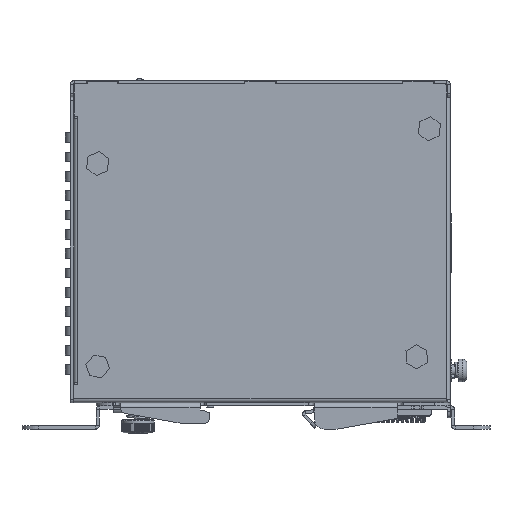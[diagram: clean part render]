
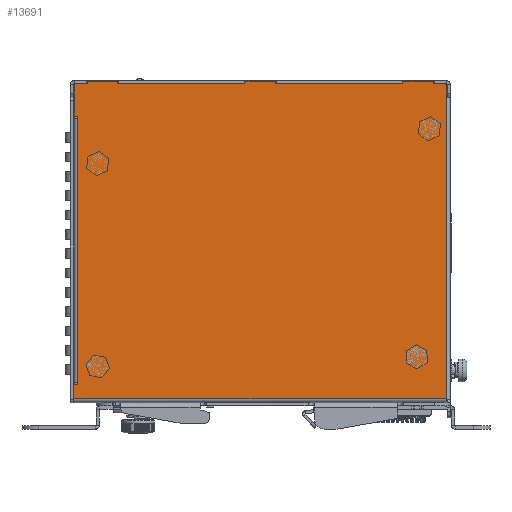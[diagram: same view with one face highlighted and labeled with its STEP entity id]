
A CAD part, left-side view. The second image highlights one B-rep face of the part: STEP entity #13691.
In plain terms, the highlighted planar face has unit normal (-1, 0, 0).
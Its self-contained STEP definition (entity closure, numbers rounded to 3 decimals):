
#5932=DIRECTION('',(0.,-1.,0.));
#5933=VECTOR('',#5932,39.4);
#5934=CARTESIAN_POINT('',(-1.,-4.8,0.));
#5935=LINE('',#5934,#5933);
#5936=DIRECTION('',(0.,0.,-1.));
#5937=VECTOR('',#5936,0.8);
#5938=CARTESIAN_POINT('',(-1.,-44.2,0.8));
#5939=LINE('',#5938,#5937);
#5940=DIRECTION('',(0.,1.,0.));
#5941=VECTOR('',#5940,9.6);
#5942=CARTESIAN_POINT('',(-1.,-53.8,0.8));
#5943=LINE('',#5942,#5941);
#5944=DIRECTION('',(0.,0.,1.));
#5945=VECTOR('',#5944,0.8);
#5946=CARTESIAN_POINT('',(-1.,-53.8,0.));
#5947=LINE('',#5946,#5945);
#5948=DIRECTION('',(0.,-1.,0.));
#5949=VECTOR('',#5948,3.5);
#5950=CARTESIAN_POINT('',(-1.,-53.8,0.));
#5951=LINE('',#5950,#5949);
#5952=CARTESIAN_POINT('',(-1.,-57.3,-0.5));
#5953=DIRECTION('',(-1.,0.,0.));
#5954=DIRECTION('',(0.,-1.,0.));
#5955=AXIS2_PLACEMENT_3D('',#5952,#5953,#5954);
#5957=DIRECTION('',(0.,0.,-1.));
#5958=VECTOR('',#5957,3.7);
#5959=CARTESIAN_POINT('',(-1.,-57.8,-0.5));
#5960=LINE('',#5959,#5958);
#5961=CARTESIAN_POINT('',(-1.,57.5,-93.8));
#5962=DIRECTION('',(-1.,0.,0.));
#5963=DIRECTION('',(0.,0.,1.));
#5964=AXIS2_PLACEMENT_3D('',#5961,#5962,#5963);
#5966=DIRECTION('',(0.,-1.,0.));
#5967=VECTOR('',#5966,0.45);
#5968=CARTESIAN_POINT('',(-1.,57.5,-93.3));
#5969=LINE('',#5968,#5967);
#5970=CARTESIAN_POINT('',(-1.,57.05,-93.05));
#5971=DIRECTION('',(-1.,0.,0.));
#5972=DIRECTION('',(0.,0.,-1.));
#5973=AXIS2_PLACEMENT_3D('',#5970,#5971,#5972);
#5975=DIRECTION('',(0.,0.,-1.));
#5976=VECTOR('',#5975,0.25);
#5977=CARTESIAN_POINT('',(-1.,56.8,-92.8));
#5978=LINE('',#5977,#5976);
#5979=DIRECTION('',(0.,0.,-1.));
#5980=VECTOR('',#5979,0.25);
#5981=CARTESIAN_POINT('',(-1.,56.8,-10.45));
#5982=LINE('',#5981,#5980);
#5983=CARTESIAN_POINT('',(-1.,57.05,-10.45));
#5984=DIRECTION('',(1.,0.,0.));
#5985=DIRECTION('',(0.,0.,1.));
#5986=AXIS2_PLACEMENT_3D('',#5983,#5984,#5985);
#5988=DIRECTION('',(0.,-1.,0.));
#5989=VECTOR('',#5988,0.25);
#5990=CARTESIAN_POINT('',(-1.,57.3,-10.2));
#5991=LINE('',#5990,#5989);
#5992=CARTESIAN_POINT('',(-1.,57.3,-9.7));
#5993=DIRECTION('',(-1.,0.,0.));
#5994=DIRECTION('',(0.,1.,0.));
#5995=AXIS2_PLACEMENT_3D('',#5992,#5993,#5994);
#5997=DIRECTION('',(0.,0.,1.));
#5998=VECTOR('',#5997,5.5);
#5999=CARTESIAN_POINT('',(-1.,57.8,-9.7));
#6000=LINE('',#5999,#5998);
#6001=DIRECTION('',(0.,0.,1.));
#6002=VECTOR('',#6001,3.7);
#6003=CARTESIAN_POINT('',(-1.,57.8,-4.2));
#6004=LINE('',#6003,#6002);
#6005=CARTESIAN_POINT('',(-1.,57.3,-0.5));
#6006=DIRECTION('',(-1.,0.,0.));
#6007=DIRECTION('',(0.,0.,1.));
#6008=AXIS2_PLACEMENT_3D('',#6005,#6006,#6007);
#6010=DIRECTION('',(0.,-1.,0.));
#6011=VECTOR('',#6010,3.5);
#6012=CARTESIAN_POINT('',(-1.,57.3,0.));
#6013=LINE('',#6012,#6011);
#6014=DIRECTION('',(0.,0.,-1.));
#6015=VECTOR('',#6014,0.8);
#6016=CARTESIAN_POINT('',(-1.,53.8,0.8));
#6017=LINE('',#6016,#6015);
#6018=DIRECTION('',(0.,1.,0.));
#6019=VECTOR('',#6018,9.6);
#6020=CARTESIAN_POINT('',(-1.,44.2,0.8));
#6021=LINE('',#6020,#6019);
#6022=DIRECTION('',(0.,0.,1.));
#6023=VECTOR('',#6022,0.8);
#6024=CARTESIAN_POINT('',(-1.,44.2,0.));
#6025=LINE('',#6024,#6023);
#6026=DIRECTION('',(0.,-1.,0.));
#6027=VECTOR('',#6026,39.4);
#6028=CARTESIAN_POINT('',(-1.,44.2,0.));
#6029=LINE('',#6028,#6027);
#6030=DIRECTION('',(0.,0.,-1.));
#6031=VECTOR('',#6030,0.8);
#6032=CARTESIAN_POINT('',(-1.,4.8,0.8));
#6033=LINE('',#6032,#6031);
#6034=DIRECTION('',(0.,1.,0.));
#6035=VECTOR('',#6034,9.6);
#6036=CARTESIAN_POINT('',(-1.,-4.8,0.8));
#6037=LINE('',#6036,#6035);
#6038=DIRECTION('',(0.,0.,1.));
#6039=VECTOR('',#6038,0.8);
#6040=CARTESIAN_POINT('',(-1.,-4.8,0.));
#6041=LINE('',#6040,#6039);
#6106=DIRECTION('',(0.,0.,1.));
#6107=VECTOR('',#6106,82.1);
#6108=CARTESIAN_POINT('',(-1.,56.8,-92.8));
#6109=LINE('',#6108,#6107);
#6170=DIRECTION('',(0.,0.,-1.));
#6171=VECTOR('',#6170,4.);
#6172=CARTESIAN_POINT('',(-1.,58.,-93.8));
#6173=LINE('',#6172,#6171);
#6208=DIRECTION('',(0.,1.,0.));
#6209=VECTOR('',#6208,115.8);
#6210=CARTESIAN_POINT('',(-1.,-57.8,-97.8));
#6211=LINE('',#6210,#6209);
#9767=DIRECTION('',(0.,0.,-1.));
#9768=VECTOR('',#9767,93.6);
#9769=CARTESIAN_POINT('',(-1.,-57.8,-4.2));
#9770=LINE('',#9769,#9768);
#11738=CARTESIAN_POINT('',(-1.,58.,-97.8));
#11740=VERTEX_POINT('',#11738);
#11741=CARTESIAN_POINT('',(-1.,-57.8,-97.8));
#11742=VERTEX_POINT('',#11741);
#11755=CARTESIAN_POINT('',(-1.,-57.8,-4.2));
#11756=VERTEX_POINT('',#11755);
#11785=CARTESIAN_POINT('',(-1.,57.3,0.));
#11787=VERTEX_POINT('',#11785);
#11793=CARTESIAN_POINT('',(-1.,-57.8,-0.5));
#11794=VERTEX_POINT('',#11793);
#11795=CARTESIAN_POINT('',(-1.,-57.3,0.));
#11796=VERTEX_POINT('',#11795);
#12081=CARTESIAN_POINT('',(-1.,57.05,-10.2));
#12083=VERTEX_POINT('',#12081);
#12087=CARTESIAN_POINT('',(-1.,56.8,-10.45));
#12088=VERTEX_POINT('',#12087);
#12091=CARTESIAN_POINT('',(-1.,56.8,-10.7));
#12092=VERTEX_POINT('',#12091);
#12096=CARTESIAN_POINT('',(-1.,57.05,-93.3));
#12098=VERTEX_POINT('',#12096);
#12099=CARTESIAN_POINT('',(-1.,56.8,-92.8));
#12100=VERTEX_POINT('',#12099);
#12105=CARTESIAN_POINT('',(-1.,56.8,-93.05));
#12106=VERTEX_POINT('',#12105);
#12113=CARTESIAN_POINT('',(-1.,57.8,-4.2));
#12114=CARTESIAN_POINT('',(-1.,57.8,-0.5));
#12115=VERTEX_POINT('',#12113);
#12116=VERTEX_POINT('',#12114);
#12121=CARTESIAN_POINT('',(-1.,57.8,-9.7));
#12122=VERTEX_POINT('',#12121);
#12123=CARTESIAN_POINT('',(-1.,57.3,-10.2));
#12124=VERTEX_POINT('',#12123);
#12129=CARTESIAN_POINT('',(-1.,57.5,-93.3));
#12130=VERTEX_POINT('',#12129);
#12131=CARTESIAN_POINT('',(-1.,58.,-93.8));
#12132=VERTEX_POINT('',#12131);
#13462=CARTESIAN_POINT('',(-1.,44.2,0.));
#13463=CARTESIAN_POINT('',(-1.,44.2,0.8));
#13464=VERTEX_POINT('',#13462);
#13465=VERTEX_POINT('',#13463);
#13466=CARTESIAN_POINT('',(-1.,53.8,0.8));
#13467=VERTEX_POINT('',#13466);
#13468=CARTESIAN_POINT('',(-1.,53.8,0.));
#13469=VERTEX_POINT('',#13468);
#13478=CARTESIAN_POINT('',(-1.,-4.8,0.));
#13479=CARTESIAN_POINT('',(-1.,-4.8,0.8));
#13480=VERTEX_POINT('',#13478);
#13481=VERTEX_POINT('',#13479);
#13482=CARTESIAN_POINT('',(-1.,4.8,0.8));
#13483=VERTEX_POINT('',#13482);
#13484=CARTESIAN_POINT('',(-1.,4.8,0.));
#13485=VERTEX_POINT('',#13484);
#13494=CARTESIAN_POINT('',(-1.,-53.8,0.));
#13495=CARTESIAN_POINT('',(-1.,-53.8,0.8));
#13496=VERTEX_POINT('',#13494);
#13497=VERTEX_POINT('',#13495);
#13498=CARTESIAN_POINT('',(-1.,-44.2,0.8));
#13499=VERTEX_POINT('',#13498);
#13500=CARTESIAN_POINT('',(-1.,-44.2,0.));
#13501=VERTEX_POINT('',#13500);
#13625=CARTESIAN_POINT('',(-1.,0.,0.));
#13626=DIRECTION('',(1.,0.,0.));
#13627=DIRECTION('',(0.,-1.,0.));
#13628=AXIS2_PLACEMENT_3D('',#13625,#13626,#13627);
#13629=PLANE('',#13628);
#13631=ORIENTED_EDGE('',*,*,#13630,.T.);
#13633=ORIENTED_EDGE('',*,*,#13632,.F.);
#13635=ORIENTED_EDGE('',*,*,#13634,.F.);
#13637=ORIENTED_EDGE('',*,*,#13636,.F.);
#13638=ORIENTED_EDGE('',*,*,#13615,.T.);
#13640=ORIENTED_EDGE('',*,*,#13639,.F.);
#13642=ORIENTED_EDGE('',*,*,#13641,.T.);
#13644=ORIENTED_EDGE('',*,*,#13643,.T.);
#13646=ORIENTED_EDGE('',*,*,#13645,.T.);
#13648=ORIENTED_EDGE('',*,*,#13647,.F.);
#13650=ORIENTED_EDGE('',*,*,#13649,.F.);
#13652=ORIENTED_EDGE('',*,*,#13651,.T.);
#13654=ORIENTED_EDGE('',*,*,#13653,.T.);
#13656=ORIENTED_EDGE('',*,*,#13655,.F.);
#13658=ORIENTED_EDGE('',*,*,#13657,.T.);
#13660=ORIENTED_EDGE('',*,*,#13659,.F.);
#13662=ORIENTED_EDGE('',*,*,#13661,.F.);
#13664=ORIENTED_EDGE('',*,*,#13663,.F.);
#13666=ORIENTED_EDGE('',*,*,#13665,.F.);
#13668=ORIENTED_EDGE('',*,*,#13667,.T.);
#13670=ORIENTED_EDGE('',*,*,#13669,.T.);
#13672=ORIENTED_EDGE('',*,*,#13671,.F.);
#13674=ORIENTED_EDGE('',*,*,#13673,.T.);
#13676=ORIENTED_EDGE('',*,*,#13675,.F.);
#13678=ORIENTED_EDGE('',*,*,#13677,.F.);
#13680=ORIENTED_EDGE('',*,*,#13679,.F.);
#13682=ORIENTED_EDGE('',*,*,#13681,.T.);
#13684=ORIENTED_EDGE('',*,*,#13683,.F.);
#13686=ORIENTED_EDGE('',*,*,#13685,.F.);
#13688=ORIENTED_EDGE('',*,*,#13687,.F.);
#13689=EDGE_LOOP('',(#13631,#13633,#13635,#13637,#13638,#13640,#13642,#13644,
#13646,#13648,#13650,#13652,#13654,#13656,#13658,#13660,#13662,#13664,#13666,
#13668,#13670,#13672,#13674,#13676,#13678,#13680,#13682,#13684,#13686,#13688));
#13690=FACE_OUTER_BOUND('',#13689,.F.);
#5956=CIRCLE('',#5955,0.5);
#5965=CIRCLE('',#5964,0.5);
#5974=CIRCLE('',#5973,0.25);
#5987=CIRCLE('',#5986,0.25);
#5996=CIRCLE('',#5995,0.5);
#6009=CIRCLE('',#6008,0.5);
#13615=EDGE_CURVE('',#13496,#11796,#5951,.T.);
#13630=EDGE_CURVE('',#13480,#13501,#5935,.T.);
#13632=EDGE_CURVE('',#13499,#13501,#5939,.T.);
#13634=EDGE_CURVE('',#13497,#13499,#5943,.T.);
#13636=EDGE_CURVE('',#13496,#13497,#5947,.T.);
#13639=EDGE_CURVE('',#11794,#11796,#5956,.T.);
#13641=EDGE_CURVE('',#11794,#11756,#5960,.T.);
#13643=EDGE_CURVE('',#11756,#11742,#9770,.T.);
#13645=EDGE_CURVE('',#11742,#11740,#6211,.T.);
#13647=EDGE_CURVE('',#12132,#11740,#6173,.T.);
#13649=EDGE_CURVE('',#12130,#12132,#5965,.T.);
#13651=EDGE_CURVE('',#12130,#12098,#5969,.T.);
#13653=EDGE_CURVE('',#12098,#12106,#5974,.T.);
#13655=EDGE_CURVE('',#12100,#12106,#5978,.T.);
#13657=EDGE_CURVE('',#12100,#12092,#6109,.T.);
#13659=EDGE_CURVE('',#12088,#12092,#5982,.T.);
#13661=EDGE_CURVE('',#12083,#12088,#5987,.T.);
#13663=EDGE_CURVE('',#12124,#12083,#5991,.T.);
#13665=EDGE_CURVE('',#12122,#12124,#5996,.T.);
#13667=EDGE_CURVE('',#12122,#12115,#6000,.T.);
#13669=EDGE_CURVE('',#12115,#12116,#6004,.T.);
#13671=EDGE_CURVE('',#11787,#12116,#6009,.T.);
#13673=EDGE_CURVE('',#11787,#13469,#6013,.T.);
#13675=EDGE_CURVE('',#13467,#13469,#6017,.T.);
#13677=EDGE_CURVE('',#13465,#13467,#6021,.T.);
#13679=EDGE_CURVE('',#13464,#13465,#6025,.T.);
#13681=EDGE_CURVE('',#13464,#13485,#6029,.T.);
#13683=EDGE_CURVE('',#13483,#13485,#6033,.T.);
#13685=EDGE_CURVE('',#13481,#13483,#6037,.T.);
#13687=EDGE_CURVE('',#13480,#13481,#6041,.T.);
#13691=ADVANCED_FACE('',(#13690),#13629,.F.);
